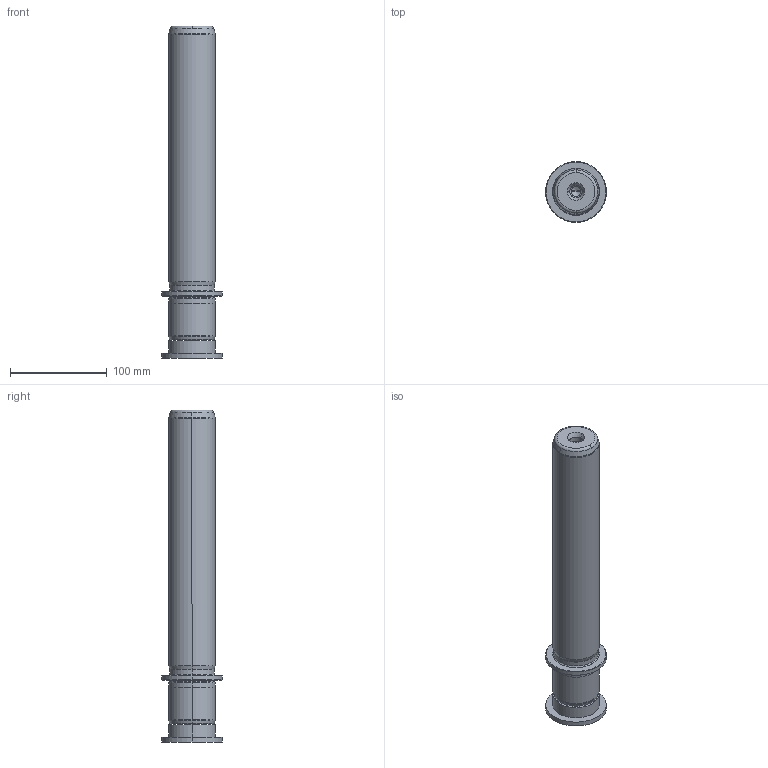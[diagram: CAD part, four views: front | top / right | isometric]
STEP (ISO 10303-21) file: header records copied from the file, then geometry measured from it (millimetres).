
FILE_DESCRIPTION((''),'2;1');
FILE_NAME('P22_048_280.stp','2009-11-02T10:41:01',(''),(''),'Mechanical Desktop 2009','Mechanical Desktop 2009',', , ');
FILE_SCHEMA(('CONFIG_CONTROL_DESIGN'));
Length unit declared in the file: millimetre
Products named in the file (2): Product; blmdl1
Assembly tree (1 placements, depth 2):
  Product
    blmdl1
Bounding box: 63 x 63 x 344 mm (x, y, z)
Volume: 624415.1 mm3; surface area: 69703.8 mm2
Topology: 3 solids, 3 shells, 99 faces, 237 edges, 149 vertices
Faces by surface type: cylinder 32, cone 28, plane 19, torus 10, bspline 10
Entity records: 3419 total; most frequent: CARTESIAN_POINT 923, DIRECTION 570, ORIENTED_EDGE 466, AXIS2_PLACEMENT_3D 246, EDGE_CURVE 233, CIRCLE 155, VERTEX_POINT 149, EDGE_LOOP 110
